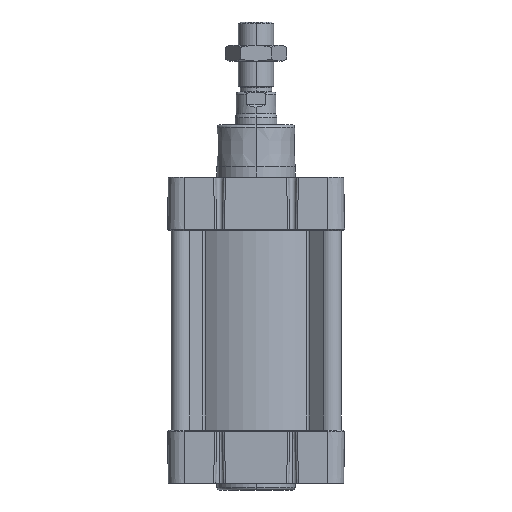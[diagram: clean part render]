
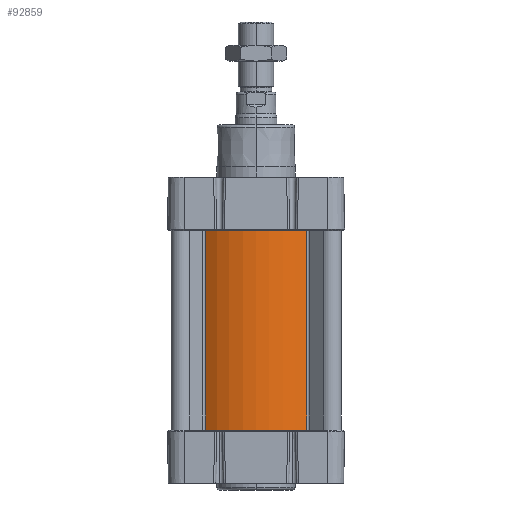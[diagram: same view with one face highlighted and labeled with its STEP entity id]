
A CAD part, left-side view. The second image highlights one B-rep face of the part: STEP entity #92859.
In plain terms, the highlighted cylindrical face has radius 65 mm (diameter 130 mm), a partial arc.
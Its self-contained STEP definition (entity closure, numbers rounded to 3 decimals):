
#1450 = LINE ( 'NONE', #114502, #30332 ) ;
#1879 = AXIS2_PLACEMENT_3D ( 'NONE', #88836, #107036, #97309 ) ;
#3075 = VERTEX_POINT ( 'NONE', #91661 ) ;
#3313 = EDGE_CURVE ( 'NONE', #3075, #77607, #119979, .T. ) ;
#8294 = VERTEX_POINT ( 'NONE', #103382 ) ;
#14615 = CARTESIAN_POINT ( 'NONE',  ( 38.726, -52.204, 0. ) ) ;
#16915 = DIRECTION ( 'NONE',  ( 0., 0., 1. ) ) ;
#20989 = AXIS2_PLACEMENT_3D ( 'NONE', #90393, #120441, #100072 ) ;
#21514 = CYLINDRICAL_SURFACE ( 'NONE', #1879, 65. ) ;
#27238 = EDGE_CURVE ( 'NONE', #103791, #77607, #115443, .T. ) ;
#30332 = VECTOR ( 'NONE', #16915, 1000. ) ;
#30510 = DIRECTION ( 'NONE',  ( 0., 0., 1. ) ) ;
#44375 = FACE_OUTER_BOUND ( 'NONE', #75604, .T. ) ;
#48328 = ORIENTED_EDGE ( 'NONE', *, *, #3313, .F. ) ;
#50388 = CARTESIAN_POINT ( 'NONE',  ( 0., 0., 0. ) ) ;
#68666 = CARTESIAN_POINT ( 'NONE',  ( 38.726, -52.204, -153. ) ) ;
#69496 = DIRECTION ( 'NONE',  ( 0., 0., 1. ) ) ;
#69755 = CIRCLE ( 'NONE', #20989, 65. ) ;
#71334 = VECTOR ( 'NONE', #69496, 1000. ) ;
#73584 = ORIENTED_EDGE ( 'NONE', *, *, #87599, .T. ) ;
#75604 = EDGE_LOOP ( 'NONE', ( #48328, #110139, #73584, #89167 ) ) ;
#77607 = VERTEX_POINT ( 'NONE', #14615 ) ;
#85455 = AXIS2_PLACEMENT_3D ( 'NONE', #50388, #30510, #98354 ) ;
#87599 = EDGE_CURVE ( 'NONE', #8294, #103791, #69755, .T. ) ;
#88836 = CARTESIAN_POINT ( 'NONE',  ( 0., 0., -153. ) ) ;
#89167 = ORIENTED_EDGE ( 'NONE', *, *, #27238, .T. ) ;
#89687 = CARTESIAN_POINT ( 'NONE',  ( 38.726, -52.204, -153. ) ) ;
#90178 = EDGE_CURVE ( 'NONE', #8294, #3075, #1450, .T. ) ;
#90393 = CARTESIAN_POINT ( 'NONE',  ( 0., 0., -153. ) ) ;
#91661 = CARTESIAN_POINT ( 'NONE',  ( -38.726, -52.204, 0. ) ) ;
#92859 = ADVANCED_FACE ( 'NONE', ( #44375 ), #21514, .T. ) ;
#97309 = DIRECTION ( 'NONE',  ( 1., 0., 0. ) ) ;
#98354 = DIRECTION ( 'NONE',  ( 1., 0., 0. ) ) ;
#100072 = DIRECTION ( 'NONE',  ( 1., 0., 0. ) ) ;
#103382 = CARTESIAN_POINT ( 'NONE',  ( -38.726, -52.204, -153. ) ) ;
#103791 = VERTEX_POINT ( 'NONE', #89687 ) ;
#107036 = DIRECTION ( 'NONE',  ( 0., 0., 1. ) ) ;
#110139 = ORIENTED_EDGE ( 'NONE', *, *, #90178, .F. ) ;
#114502 = CARTESIAN_POINT ( 'NONE',  ( -38.726, -52.204, -153. ) ) ;
#115443 = LINE ( 'NONE', #68666, #71334 ) ;
#119979 = CIRCLE ( 'NONE', #85455, 65. ) ;
#120441 = DIRECTION ( 'NONE',  ( 0., 0., 1. ) ) ;
